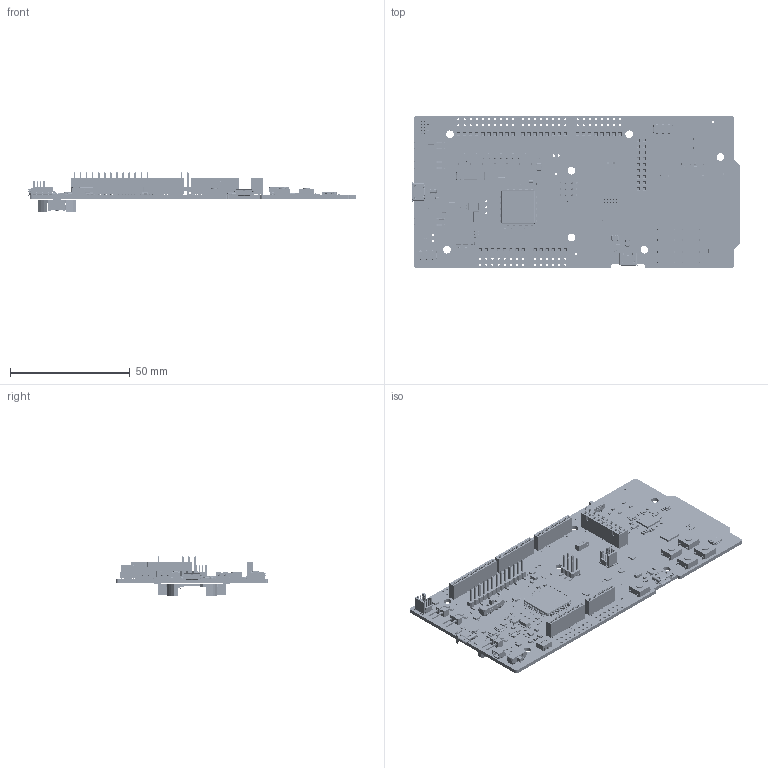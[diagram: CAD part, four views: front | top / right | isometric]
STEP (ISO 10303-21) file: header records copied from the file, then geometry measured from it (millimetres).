
FILE_DESCRIPTION(('Open CASCADE Model'),'2;1');
FILE_NAME('Open CASCADE Shape Model','2020-08-24T15:07:52',('Author'),( 'Open CASCADE'),'Open CASCADE STEP processor 6.8','Open CASCADE 6.8' ,'Unknown');
FILE_SCHEMA(('AUTOMOTIVE_DESIGN { 1 0 10303 214 1 1 1 1 }'));
Length unit declared in the file: millimetre
Products named in the file (415): PCB; Board; Open CASCADE STEP translator 6.8 2.1.1; R65; User_Library-res0201-1; R66; R64; R23; Q20; 5900126544; Open_CASCADE_STEP_translator_6.8_8.1; Body; Open_CASCADE_STEP_translator_6.8_8.2.1; Pin_Shape; Open_CASCADE_STEP_translator_6.8_8.3.1; R22; C92; User_Library-Chip_Capacitor_0603; U23; 5900137584; Open_CASCADE_STEP_translator_6.8_7.1.1; Leader; R69; R99; R97; R98; U26; SW3dPS-SC70-6; R96; R95; Q84; 5900133904; Open_CASCADE_STEP_translator_6.8_19.1; Open_CASCADE_STEP_translator_6.8_19.2.1; Thermal_Shape; C94; User_Library-0201(0603M)_Cap; R2; R1; C52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
Assembly tree (814 placements, depth 5):
  PCB
    Board
      Open CASCADE STEP translator 6.8 2.1.1
    R65
      User_Library-res0201-1
    R66
      User_Library-res0201-1
    R64
      User_Library-res0201-1
    R23
      User_Library-res0201-1
    Q20
      5900126544
        Open_CASCADE_STEP_translator_6.8_8.1
        Body
          Open_CASCADE_STEP_translator_6.8_8.2.1
        Pin_Shape  x6
          Open_CASCADE_STEP_translator_6.8_8.3.1
    R22
      User_Library-res0201-1
    C92
      User_Library-Chip_Capacitor_0603
    U23
      5900137584
        Body
          Open_CASCADE_STEP_translator_6.8_7.1.1
        Leader  x5
    R69
      User_Library-res0201-1
    R99
      User_Library-res0201-1
    R97
      User_Library-res0201-1
    R98
      User_Library-res0201-1
    U26
      SW3dPS-SC70-6
    R96
      User_Library-res0201-1
    R95
      User_Library-res0201-1
    Q84
      5900133904
        Open_CASCADE_STEP_translator_6.8_19.1
        Body
          Open_CASCADE_STEP_translator_6.8_19.2.1
        Thermal_Shape
    C94
      User_Library-0201(0603M)_Cap
    R2
      User_Library-res0201-1
    R1
      User_Library-res0201-1
    C52
      User_Library-0201(0603M)_Cap
    C51
      User_Library-0201(0603M)_Cap
    R49
      User_Library-res0201-1
    C15
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Bounding box: 137.19 x 63.5 x 16.82 mm (x, y, z)
Volume: 18536.1 mm3; surface area: 30636.6 mm2
Topology: 666 solids, 675 shells, 23359 faces, 59278 edges, 36973 vertices
Faces by surface type: plane 15250, cylinder 4162, bspline 3519, sphere 368, torus 46, cone 10, revolution 4
Full cylindrical faces by diameter (mm): 0.231 x1, 0.25 x184, 0.256 x4, 0.263 x1, 0.562 x1, 0.6 x2, 0.762 x1, 0.8 x3, 0.887 x1, 0.9 x85, 0.991 x3, 1 x5, 1.78 x3, 1.8 x1, 2 x1, 2.05 x1, 2.1 x2, 3.2 x7
Entity records: 321158 total; most frequent: CARTESIAN_POINT 68840, ORIENTED_EDGE 44584, DIRECTION 42349, EDGE_CURVE 22296, LINE 18049, VECTOR 18049, VERTEX_POINT 14206, AXIS2_PLACEMENT_3D 12148
